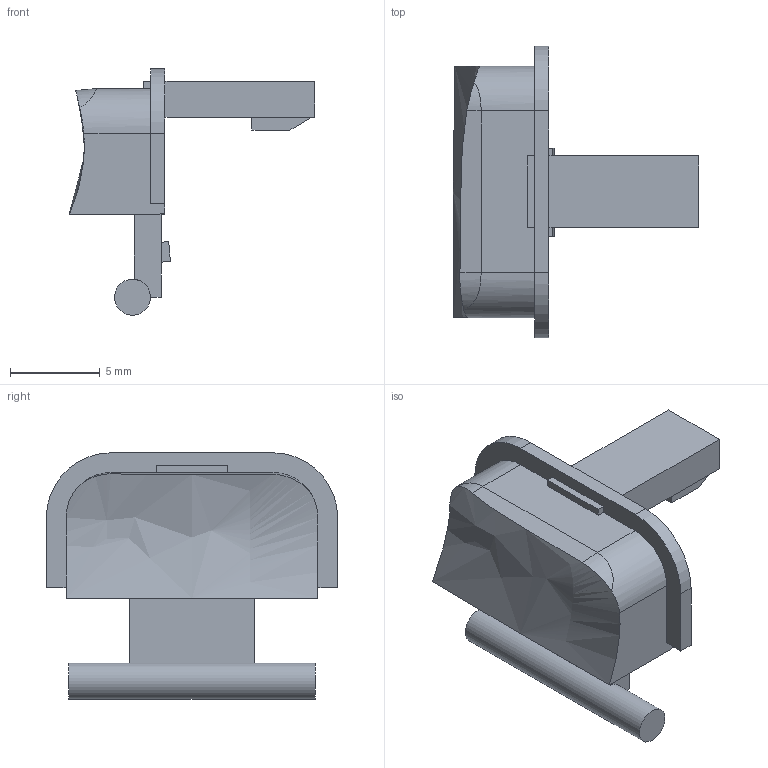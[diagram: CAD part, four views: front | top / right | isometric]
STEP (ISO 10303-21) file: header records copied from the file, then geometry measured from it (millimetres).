
FILE_DESCRIPTION(('Open CASCADE Model'),'2;1');
FILE_NAME('Open CASCADE Shape Model','2026-11-26T01:43:35',('Author'),( 'Open CASCADE'),'Open CASCADE STEP processor 7.9','build123d', 'Unknown');
FILE_SCHEMA(('AUTOMOTIVE_DESIGN { 1 0 10303 214 1 1 1 1 }'));
Products named in the file (1): SOLID
Bounding box: 13.67 x 16.2 x 13.7 mm (x, y, z)
Volume: 620.5 mm3; surface area: 706.8 mm2
Topology: 1 solids, 1 shells, 49 faces, 128 edges, 84 vertices
Faces by surface type: plane 41, cylinder 7, bspline 1
Full cylindrical faces by diameter (mm): 2 x1
Entity records: 42315 total; most frequent: CARTESIAN_POINT 39907, DIRECTION 380, ORIENTED_EDGE 256, PCURVE 256, DEFINITIONAL_REPRESENTATION 256, LINE 252, VECTOR 252, EDGE_CURVE 128
